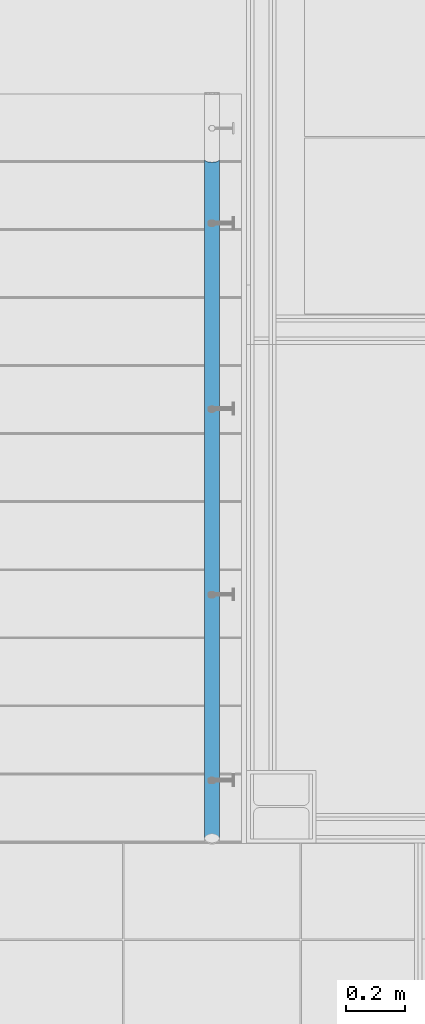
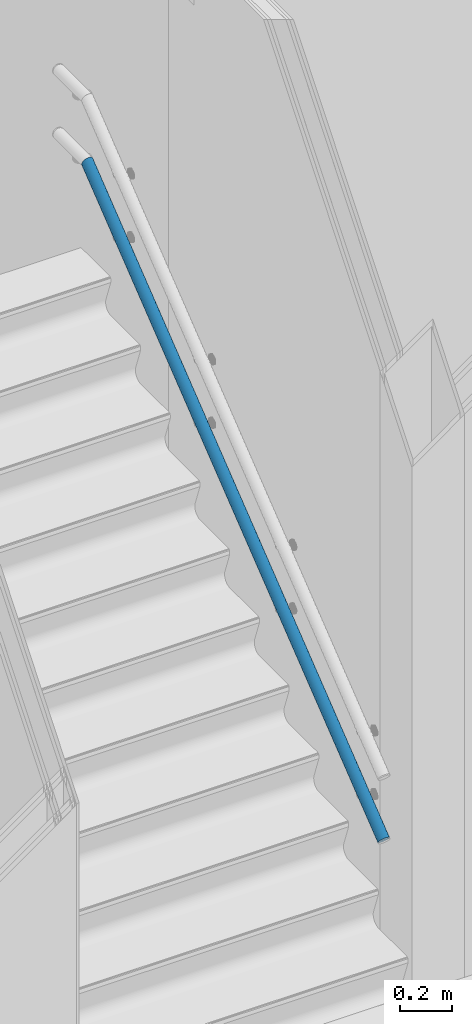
# One storey, part 15 of 338: 1 building element part, 2 elements without a shape of their own.
"""IFC2X3 building model written with IfcOpenShell, lengths in millimetres."""

from ifc_helpers import new_model, entity, si_unit, converted_unit, derived_unit, money_unit, direction, frame, origin_with_axes, place, context, subcontext, project, spatial, faceted_brep, source, transform, mapped, material, type_object, element, aggregate, save


model = new_model("IFC2X3")

# Units and contexts
model_context = context("Model", 3, precision=0.01, world=origin_with_axes(), true_north=direction((0.0, 1.0)))
plan_context = context("Plan", 3, precision=0.01, world=origin_with_axes(), true_north=direction((0.0, 1.0)))
body_context = subcontext(model_context, "Body", "Model", "MODEL_VIEW")
ifc_project = project(units=[si_unit("LENGTHUNIT", "METRE", prefix="MILLI"), si_unit("AREAUNIT", "SQUARE_METRE"), si_unit("VOLUMEUNIT", "CUBIC_METRE"), converted_unit("PLANEANGLEUNIT", "DEGREE", entity("IfcPlaneAngleMeasure", 0.0174532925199), si_unit("PLANEANGLEUNIT", "RADIAN"), dimensions=[0, 0, 0, 0, 0, 0, 0]), money_unit("EUR"), converted_unit("TIMEUNIT", "Year", entity("IfcTimeMeasure", 31556926.0), si_unit("TIMEUNIT", "SECOND"), dimensions=[0, 0, 1, 0, 0, 0, 0]), si_unit("MASSUNIT", "GRAM", prefix="KILO"), si_unit("THERMODYNAMICTEMPERATUREUNIT", "DEGREE_CELSIUS"), si_unit("LUMINOUSINTENSITYUNIT", "LUMEN"), si_unit("ENERGYUNIT", "JOULE", prefix="MEGA"), derived_unit("THERMALCONDUCTANCEUNIT", [(si_unit("POWERUNIT", "WATT"), 1), (si_unit("LENGTHUNIT", "METRE"), -1), (si_unit("THERMODYNAMICTEMPERATUREUNIT", "KELVIN"), -1)]), derived_unit("SPECIFICHEATCAPACITYUNIT", [(si_unit("ENERGYUNIT", "JOULE"), 1), (si_unit("MASSUNIT", "GRAM", prefix="KILO"), -1), (si_unit("THERMODYNAMICTEMPERATUREUNIT", "KELVIN"), -1)]), derived_unit("MASSDENSITYUNIT", [(si_unit("MASSUNIT", "GRAM", prefix="KILO"), 1), (si_unit("VOLUMEUNIT", "CUBIC_METRE"), -1)])], contexts=[model_context, plan_context])

# Site, building, storey
site_placement = place(None, origin_with_axes())
site = spatial("IfcSite", under=ifc_project, at=site_placement, Name="Fortuinstraat Woensdrecht", CompositionType="ELEMENT")
building_placement = place(site_placement, origin_with_axes())
building = spatial("IfcBuilding", under=site, at=building_placement, Name="IKC Fortuna", CompositionType="ELEMENT")
storey_placement = place(building_placement, origin_with_axes())
storey = spatial("IfcBuildingStorey", under=building, at=storey_placement, Name="00 begane grond", CompositionType="ELEMENT", Elevation=0.0)

# Railing, member, building element part
railing_type = type_object("IfcRailingType", Name="Railing Type", PredefinedType="NOTDEFINED")
railing_placement = place(storey_placement, frame((28891.8811335, 19719.7895441, -299.431818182), z_axis=(0.0, 0.0, 1.0), x_axis=(0.642787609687, -0.766044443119, 0.0)))
railing = element("IfcRailing", 1, at=railing_placement, inside=storey, type_object=railing_type, Name="_Reling_Reling-x", PredefinedType="NOTDEFINED")
member_type = type_object("IfcMemberType", Name="IfcMember", PredefinedType="USERDEFINED")
member_placement = place(railing_placement, frame((-1043.1231369, 670.405582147, 1025.34830056), z_axis=(0.0, 0.0, 1.0), x_axis=(0.642787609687, 0.766044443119, 0.0)))
member = element("IfcMember", 2, at=member_placement, type_object=member_type, Name="_Reling - regel_Handregel-x")
aggregate(railing, [member])
ifc_material = material(Name="Hout AFW")
shared_shape = source(origin_with_axes(), body_context, "Body", "Brep", [
    faceted_brep([(-125.0, 15.5036710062, 880.387856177), (-124.620193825, 12.8114867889, 883.793469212), (-124.620193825, 2307.17937185, 2697.52302262), (-125.0, 2308.68803294, 2693.18181818), (-124.620193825, 18.1958552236, 876.982243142), (-123.49231552, 20.8062387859, 873.680107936), (-121.650635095, 23.2555065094, 870.581784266), (-119.151111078, 25.4692386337, 867.781413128), (-116.069690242, 27.3801720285, 865.364082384), (-112.5, 28.9302439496, 863.403241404), (-108.550503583, 30.0723562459, 861.958469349), (-104.341204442, 30.7718064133, 861.073664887), (-100.0, 31.0073420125, 860.775712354), (-95.6587955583, 30.7718064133, 861.073664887), (-91.4494964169, 30.0723562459, 861.958469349), (-87.5, 28.9302439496, 863.403241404), (-83.9303097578, 27.3801720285, 865.364082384), (-80.848888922, 25.4692386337, 867.781413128), (-78.3493649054, 23.2555065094, 870.581784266), (-76.5076844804, 20.8062387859, 873.680107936), (-75.3798061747, 18.1958552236, 876.982243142), (-75.0, 15.5036710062, 880.387856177), (-75.3798061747, 12.8114867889, 883.793469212), (-76.5076844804, 10.2011032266, 887.095604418), (-78.3493649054, 7.75183550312, 890.193928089), (-80.848888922, 5.53810337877, 892.994299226), (-83.9303097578, 3.62716998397, 895.41162997), (-87.5, 2.07709806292, 897.37247095), (-91.4494964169, 0.934985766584, 898.817243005), (-95.6587955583, 0.235535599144, 899.702047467), (-100.0, 0.0, 900.0), (-104.341204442, 0.235535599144, 899.702047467), (-108.550503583, 0.934985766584, 898.817243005), (-112.5, 2.07709806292, 897.37247095), (-116.069690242, 3.62716998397, 895.41162997), (-119.151111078, 5.53810337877, 892.994299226), (-121.650635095, 7.75183550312, 890.193928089), (-123.49231552, 10.2011032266, 887.095604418), (-123.49231552, 2305.71655067, 2701.73232176), (-121.650635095, 2304.34401647, 2705.68181818), (-119.151111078, 2303.10347301, 2709.25150842), (-116.069690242, 2302.03261359, 2712.33292926), (-112.5, 2301.16397571, 2714.83245328), (-108.550503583, 2300.5239525, 2716.6741337), (-104.341204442, 2300.13199074, 2717.80201201), (-100.0, 2300.0, 2718.18181818), (-95.6587955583, 2300.13199074, 2717.80201201), (-91.4494964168, 2300.5239525, 2716.6741337), (-87.5, 2301.16397571, 2714.83245328), (-83.9303097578, 2302.03261359, 2712.33292926), (-80.848888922, 2303.10347301, 2709.25150842), (-78.3493649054, 2304.34401647, 2705.68181818), (-76.5076844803, 2305.71655067, 2701.73232176), (-75.3798061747, 2307.17937185, 2697.52302262), (-75.0, 2308.68803294, 2693.18181818), (-75.3798061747, 2310.19669403, 2688.84061374), (-76.5076844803, 2311.65951521, 2684.6313146), (-78.3493649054, 2313.03204941, 2680.68181818), (-80.848888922, 2314.27259287, 2677.11212794), (-83.9303097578, 2315.3434523, 2674.0307071), (-87.5, 2316.21209018, 2671.53118309), (-91.4494964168, 2316.85211339, 2669.68950266), (-95.6587955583, 2317.24407514, 2668.56162436), (-100.0, 2317.37606588, 2668.18181818), (-104.341204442, 2317.24407514, 2668.56162436), (-108.550503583, 2316.85211339, 2669.68950266), (-112.5, 2316.21209018, 2671.53118309), (-116.069690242, 2315.3434523, 2674.0307071), (-119.151111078, 2314.27259287, 2677.11212794), (-121.650635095, 2313.03204941, 2680.68181818), (-123.49231552, 2311.65951521, 2684.6313146), (-124.620193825, 2310.19669403, 2688.84061374)], [[[0, 1, 2, 3]], [[0, 4, 5, 6, 7, 8, 9, 10, 11, 12, 13, 14, 15, 16, 17, 18, 19, 20, 21, 22, 23, 24, 25, 26, 27, 28, 29, 30, 31, 32, 33, 34, 35, 36, 37, 1]], [[1, 37, 38, 2]], [[3, 2, 38, 39, 40, 41, 42, 43, 44, 45, 46, 47, 48, 49, 50, 51, 52, 53, 54, 55, 56, 57, 58, 59, 60, 61, 62, 63, 64, 65, 66, 67, 68, 69, 70, 71]], [[4, 0, 3, 71]], [[5, 4, 71, 70]], [[6, 5, 70, 69]], [[7, 6, 69, 68]], [[8, 7, 68, 67]], [[9, 8, 67, 66]], [[10, 9, 66, 65]], [[11, 10, 65, 64]], [[12, 11, 64, 63]], [[13, 12, 63, 62]], [[14, 13, 62, 61]], [[15, 14, 61, 60]], [[16, 15, 60, 59]], [[17, 16, 59, 58]], [[18, 17, 58, 57]], [[19, 18, 57, 56]], [[20, 19, 56, 55]], [[21, 20, 55, 54]], [[22, 21, 54, 53]], [[23, 22, 53, 52]], [[24, 23, 52, 51]], [[25, 24, 51, 50]], [[26, 25, 50, 49]], [[27, 26, 49, 48]], [[28, 27, 48, 47]], [[29, 28, 47, 46]], [[30, 29, 46, 45]], [[31, 30, 45, 44]], [[32, 31, 44, 43]], [[33, 32, 43, 42]], [[34, 33, 42, 41]], [[35, 34, 41, 40]], [[36, 35, 40, 39]], [[37, 36, 39, 38]]]),
])
building_element_part_placement = place(member_placement, origin_with_axes())
building_element_part = element("IfcBuildingElementPart", 3, at=building_element_part_placement, material=ifc_material, Name="Hout AFW", context=body_context, shape_type="MappedRepresentation", body=[
    mapped(shared_shape, transform((100.0, -1150.0, -844.098300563))),
])
aggregate(member, [building_element_part])

save(model, "model.ifc")
